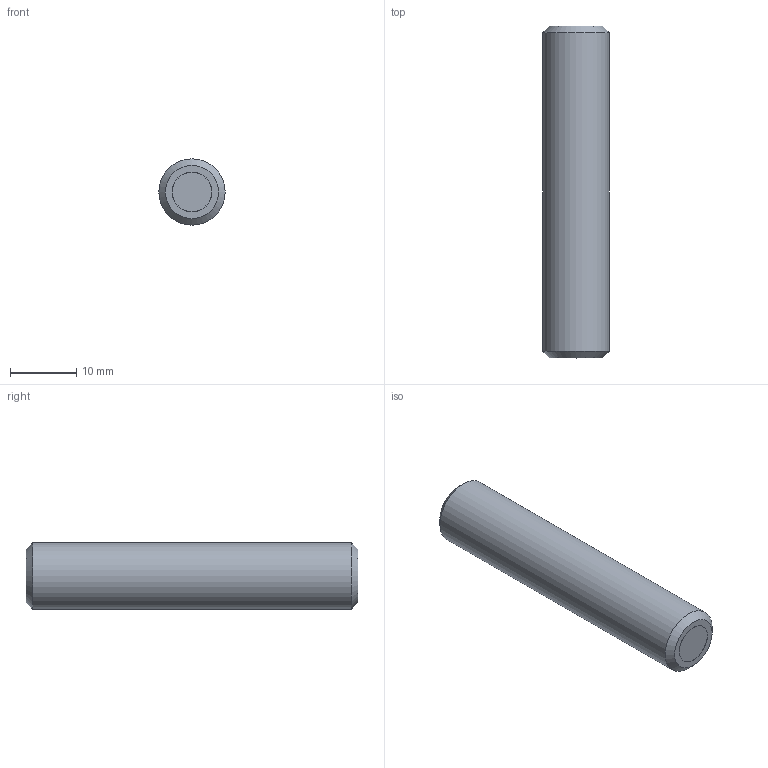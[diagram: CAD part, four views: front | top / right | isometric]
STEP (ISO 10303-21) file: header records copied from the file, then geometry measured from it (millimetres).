
FILE_DESCRIPTION(/* description */ ('STEP AP214'),/* implementation_level */ '2;1');
FILE_NAME(/* name */ 'Grub screw with retaining magnet GN 913.6-M10-50-ND',/* time_stamp */ '2023-10-03T11:27:07+02:00',/* author */ ('License CC BY-ND 4.0'),/* organization */ ('CADENAS'),/* preprocessor_version */ 'ST-DEVELOPER v19.3',/* originating_system */ 'PARTsolutions',/* authorisation */ ' ');
FILE_SCHEMA (('AUTOMOTIVE_DESIGN {1 0 10303 214 3 1 1}'));
Length unit declared in the file: millimetre
Products named in the file (1): Grub screw with retaining magnet GN 913.6-M10-50-ND
Bounding box: 10 x 50 x 10 mm (x, y, z)
Volume: 3784.7 mm3; surface area: 1775 mm2
Topology: 1 solids, 1 shells, 22 faces, 46 edges, 28 vertices
Faces by surface type: plane 16, cone 3, cylinder 3
Full cylindrical faces by diameter (mm): 5.96 x1, 6 x1, 10 x1
Entity records: 566 total; most frequent: DIRECTION 98, CARTESIAN_POINT 88, ORIENTED_EDGE 76, EDGE_CURVE 38, AXIS2_PLACEMENT_3D 37, FACE_BOUND 31, EDGE_LOOP 30, VERTEX_POINT 27
